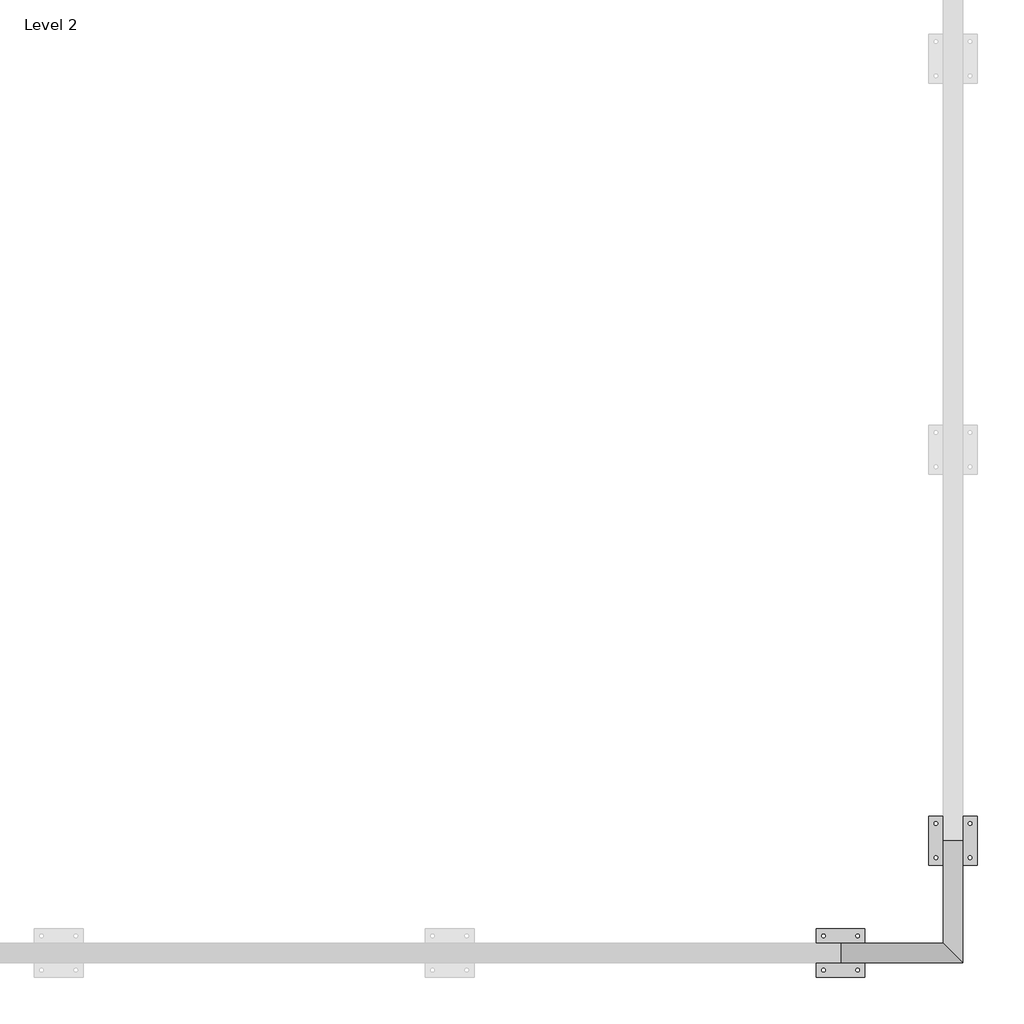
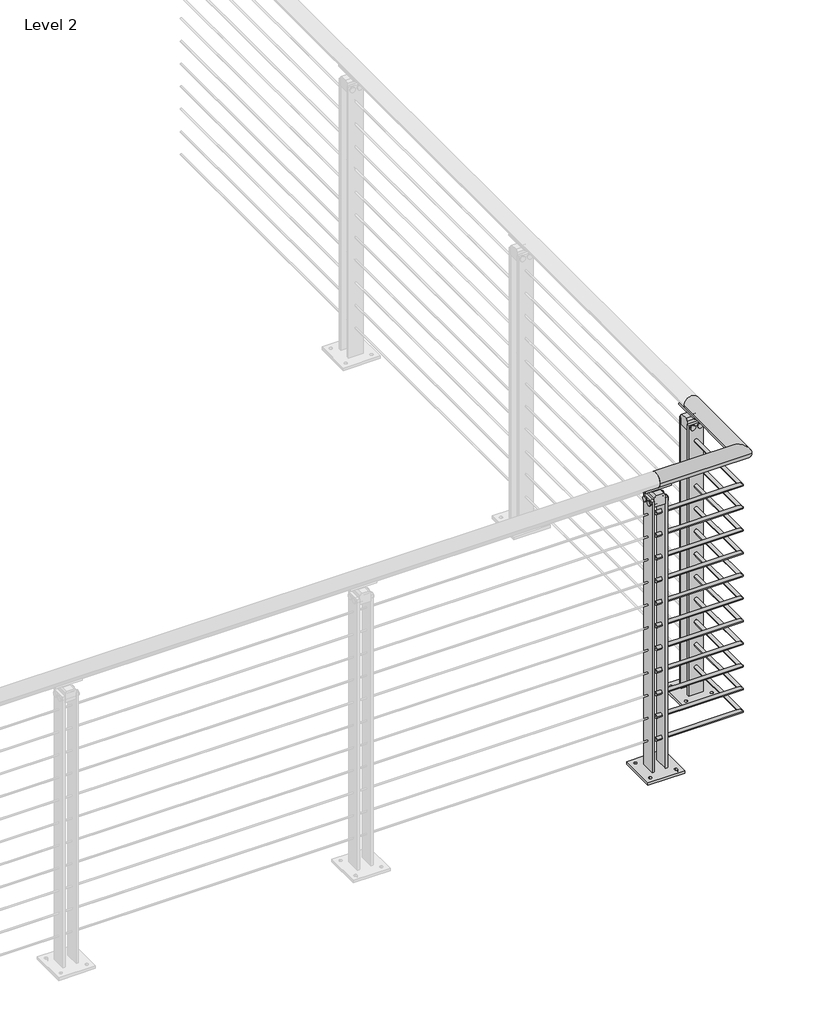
# One storey, part 22 of 31: 1 railing.
"""IFC4 building model written with IfcOpenShell, lengths in millimetres."""

from ifc_helpers import new_model, si_unit, point, frame, frame_2d, origin, place, context, project, spatial, polyline, circle_curve, ellipse_curve, trimmed, segment, composite_curve, outline, extrude, element, save
from ifc_brep_helpers import plane_surface, cylinder_surface, revolved_surface, advanced_brep

model = new_model("IFC4")

# Units and contexts
model_context = context("Model", 3, world=origin())
ifc_project = project(units=[si_unit("LENGTHUNIT", "METRE", prefix="MILLI")], contexts=[model_context])

# Site, building, storey
site = spatial("IfcSite", under=ifc_project)
building = spatial("IfcBuilding", under=site)
storey = spatial("IfcBuildingStorey", under=building, Name="Level 2", Elevation=3048.0)

# Railing
placement = place(None, origin())
element("IfcRailing", 1, ObjectType="VIVA-BLADE-Cable-Floor Mount-Corner", at=placement, inside=storey, context=model_context, shape_type="SolidModel", body=[
    advanced_brep(
    [(20523.0072927, -52130.1426165, 4102.1), (20523.0072927, -52079.3426165, 4102.1), (20840.5072927, -52130.1426165, 4102.1), (20789.7072927, -52079.3426165, 4102.1), (20840.5072927, -51812.6426165, 4102.1), (20789.7072927, -51812.6426165, 4102.1)],
    [
        (0, 1, circle_curve(frame((20523.0072927, -52104.7426165, 4102.1), z_axis=(-1.0, 0.0, 0.0), x_axis=(0.0, 1.0, 0.0)), 25.4)),
        (1, 0, circle_curve(frame((20523.0072927, -52104.7426165, 4102.1), z_axis=(-1.0, 0.0, 0.0), x_axis=(0.0, 1.0, 0.0)), 25.4)),
        (0, 2),
        (2, 3, ellipse_curve(frame((20815.1072927, -52104.7426165, 4102.1), z_axis=(-0.7071067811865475, -0.7071067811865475, 0.0), x_axis=(-0.7071067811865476, 0.7071067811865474, 0.0)), 35.9210245, 25.4)),
        (3, 1),
        (3, 2, ellipse_curve(frame((20815.1072927, -52104.7426165, 4102.1), z_axis=(-0.7071067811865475, -0.7071067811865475, 0.0), x_axis=(-0.7071067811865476, 0.7071067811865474, 0.0)), 35.9210245, 25.4)),
        (4, 5, circle_curve(frame((20815.1072927, -51812.6426165, 4102.1), z_axis=(0.0, 1.0, 0.0), x_axis=(-1.0, 0.0, 0.0)), 25.4)),
        (5, 4, circle_curve(frame((20815.1072927, -51812.6426165, 4102.1), z_axis=(0.0, 1.0, 0.0), x_axis=(-1.0, 0.0, 0.0)), 25.4)),
        (2, 4),
        (5, 3),
    ],
    [
        plane_surface(frame((20523.0072927, -52104.7426165, 4127.5), z_axis=(-1.0, 0.0, 0.0), x_axis=(0.0, 1.0, 0.0))),
        cylinder_surface(frame((20523.0072927, -52104.7426165, 4102.1), z_axis=(-1.0, 0.0, 0.0), x_axis=(0.0, 1.0, 0.0)), 25.4),
        plane_surface(frame((20815.1072927, -51812.6426165, 4127.5), z_axis=(0.0, 1.0, 0.0), x_axis=(0.0, 0.0, 1.0))),
        cylinder_surface(frame((20815.1072927, -52104.7426165, 4102.1), z_axis=(0.0, -1.0, 0.0), x_axis=(-1.0, 0.0, 0.0)), 25.4),
    ],
    [
        (0, [[1, 2]]),
        (1, [[-1, 3, 4, 5]]),
        (1, [[-2, -5, 6, -3]]),
        (2, [[7, 8]]),
        (3, [[-4, 9, -8, 10]]),
        (3, [[-6, -10, -7, -9]]),
    ],
),
    advanced_brep(
    [(20523.0072927, -52098.3926165, 3981.45), (20523.0072927, -52111.0926165, 3981.45), (20808.7572927, -52098.3926165, 3981.45), (20821.4572927, -52111.0926165, 3981.45), (20808.7572927, -51812.6426165, 3981.45), (20821.4572927, -51812.6426165, 3981.45)],
    [
        (0, 1, circle_curve(frame((20523.0072927, -52104.7426165, 3981.45), z_axis=(-1.0, 0.0, 0.0), x_axis=(0.0, -1.0, 0.0)), 6.35)),
        (1, 0, circle_curve(frame((20523.0072927, -52104.7426165, 3981.45), z_axis=(-1.0, 0.0, 0.0), x_axis=(0.0, -1.0, 0.0)), 6.35)),
        (0, 2),
        (2, 3, ellipse_curve(frame((20815.1072927, -52104.7426165, 3981.45), z_axis=(-0.7071067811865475, -0.7071067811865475, 0.0), x_axis=(-0.7071067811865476, 0.7071067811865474, 0.0)), 8.9802561, 6.35)),
        (3, 1),
        (3, 2, ellipse_curve(frame((20815.1072927, -52104.7426165, 3981.45), z_axis=(-0.7071067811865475, -0.7071067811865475, 0.0), x_axis=(-0.7071067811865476, 0.7071067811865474, 0.0)), 8.9802561, 6.35)),
        (4, 5, circle_curve(frame((20815.1072927, -51812.6426165, 3981.45), z_axis=(0.0, 1.0, 0.0), x_axis=(1.0, 0.0, 0.0)), 6.35)),
        (5, 4, circle_curve(frame((20815.1072927, -51812.6426165, 3981.45), z_axis=(0.0, 1.0, 0.0), x_axis=(1.0, 0.0, 0.0)), 6.35)),
        (2, 4),
        (5, 3),
    ],
    [
        plane_surface(frame((20523.0072927, -52104.7426165, 3987.8), z_axis=(-1.0, 0.0, 0.0), x_axis=(0.0, 1.0, 0.0))),
        cylinder_surface(frame((20523.0072927, -52104.7426165, 3981.45), z_axis=(-1.0, 0.0, 0.0), x_axis=(0.0, -1.0, 0.0)), 6.35),
        plane_surface(frame((20815.1072927, -51812.6426165, 3987.8), z_axis=(0.0, 1.0, 0.0), x_axis=(0.0, 0.0, 1.0))),
        cylinder_surface(frame((20815.1072927, -52104.7426165, 3981.45), z_axis=(0.0, -1.0, 0.0), x_axis=(1.0, 0.0, 0.0)), 6.35),
    ],
    [
        (0, [[1, 2]]),
        (1, [[-1, 3, 4, 5]]),
        (1, [[-2, -5, 6, -3]]),
        (2, [[7, 8]]),
        (3, [[-4, 9, -8, 10]]),
        (3, [[-6, -10, -7, -9]]),
    ],
),
    advanced_brep(
    [(20523.0072927, -52098.3926165, 3898.9), (20523.0072927, -52111.0926165, 3898.9), (20808.7572927, -52098.3926165, 3898.9), (20821.4572927, -52111.0926165, 3898.9), (20808.7572927, -51812.6426165, 3898.9), (20821.4572927, -51812.6426165, 3898.9)],
    [
        (0, 1, circle_curve(frame((20523.0072927, -52104.7426165, 3898.9), z_axis=(-1.0, 0.0, 0.0), x_axis=(0.0, -1.0, 0.0)), 6.35)),
        (1, 0, circle_curve(frame((20523.0072927, -52104.7426165, 3898.9), z_axis=(-1.0, 0.0, 0.0), x_axis=(0.0, -1.0, 0.0)), 6.35)),
        (0, 2),
        (2, 3, ellipse_curve(frame((20815.1072927, -52104.7426165, 3898.9), z_axis=(-0.7071067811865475, -0.7071067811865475, 0.0), x_axis=(-0.7071067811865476, 0.7071067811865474, 0.0)), 8.9802561, 6.35)),
        (3, 1),
        (3, 2, ellipse_curve(frame((20815.1072927, -52104.7426165, 3898.9), z_axis=(-0.7071067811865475, -0.7071067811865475, 0.0), x_axis=(-0.7071067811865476, 0.7071067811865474, 0.0)), 8.9802561, 6.35)),
        (4, 5, circle_curve(frame((20815.1072927, -51812.6426165, 3898.9), z_axis=(0.0, 1.0, 0.0), x_axis=(1.0, 0.0, 0.0)), 6.35)),
        (5, 4, circle_curve(frame((20815.1072927, -51812.6426165, 3898.9), z_axis=(0.0, 1.0, 0.0), x_axis=(1.0, 0.0, 0.0)), 6.35)),
        (2, 4),
        (5, 3),
    ],
    [
        plane_surface(frame((20523.0072927, -52104.7426165, 3905.25), z_axis=(-1.0, 0.0, 0.0), x_axis=(0.0, 1.0, 0.0))),
        cylinder_surface(frame((20523.0072927, -52104.7426165, 3898.9), z_axis=(-1.0, 0.0, 0.0), x_axis=(0.0, -1.0, 0.0)), 6.35),
        plane_surface(frame((20815.1072927, -51812.6426165, 3905.25), z_axis=(0.0, 1.0, 0.0), x_axis=(0.0, 0.0, 1.0))),
        cylinder_surface(frame((20815.1072927, -52104.7426165, 3898.9), z_axis=(0.0, -1.0, 0.0), x_axis=(1.0, 0.0, 0.0)), 6.35),
    ],
    [
        (0, [[1, 2]]),
        (1, [[-1, 3, 4, 5]]),
        (1, [[-2, -5, 6, -3]]),
        (2, [[7, 8]]),
        (3, [[-4, 9, -8, 10]]),
        (3, [[-6, -10, -7, -9]]),
    ],
),
    advanced_brep(
    [(20523.0072927, -52098.3926165, 3816.35), (20523.0072927, -52111.0926165, 3816.35), (20808.7572927, -52098.3926165, 3816.35), (20821.4572927, -52111.0926165, 3816.35), (20808.7572927, -51812.6426165, 3816.35), (20821.4572927, -51812.6426165, 3816.35)],
    [
        (0, 1, circle_curve(frame((20523.0072927, -52104.7426165, 3816.35), z_axis=(-1.0, 0.0, 0.0), x_axis=(0.0, -1.0, 0.0)), 6.35)),
        (1, 0, circle_curve(frame((20523.0072927, -52104.7426165, 3816.35), z_axis=(-1.0, 0.0, 0.0), x_axis=(0.0, -1.0, 0.0)), 6.35)),
        (0, 2),
        (2, 3, ellipse_curve(frame((20815.1072927, -52104.7426165, 3816.35), z_axis=(-0.7071067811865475, -0.7071067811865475, 0.0), x_axis=(-0.7071067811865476, 0.7071067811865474, 0.0)), 8.9802561, 6.35)),
        (3, 1),
        (3, 2, ellipse_curve(frame((20815.1072927, -52104.7426165, 3816.35), z_axis=(-0.7071067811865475, -0.7071067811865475, 0.0), x_axis=(-0.7071067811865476, 0.7071067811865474, 0.0)), 8.9802561, 6.35)),
        (4, 5, circle_curve(frame((20815.1072927, -51812.6426165, 3816.35), z_axis=(0.0, 1.0, 0.0), x_axis=(1.0, 0.0, 0.0)), 6.35)),
        (5, 4, circle_curve(frame((20815.1072927, -51812.6426165, 3816.35), z_axis=(0.0, 1.0, 0.0), x_axis=(1.0, 0.0, 0.0)), 6.35)),
        (2, 4),
        (5, 3),
    ],
    [
        plane_surface(frame((20523.0072927, -52104.7426165, 3822.7), z_axis=(-1.0, 0.0, 0.0), x_axis=(0.0, 1.0, 0.0))),
        cylinder_surface(frame((20523.0072927, -52104.7426165, 3816.35), z_axis=(-1.0, 0.0, 0.0), x_axis=(0.0, -1.0, 0.0)), 6.35),
        plane_surface(frame((20815.1072927, -51812.6426165, 3822.7), z_axis=(0.0, 1.0, 0.0), x_axis=(0.0, 0.0, 1.0))),
        cylinder_surface(frame((20815.1072927, -52104.7426165, 3816.35), z_axis=(0.0, -1.0, 0.0), x_axis=(1.0, 0.0, 0.0)), 6.35),
    ],
    [
        (0, [[1, 2]]),
        (1, [[-1, 3, 4, 5]]),
        (1, [[-2, -5, 6, -3]]),
        (2, [[7, 8]]),
        (3, [[-4, 9, -8, 10]]),
        (3, [[-6, -10, -7, -9]]),
    ],
),
    advanced_brep(
    [(20523.0072927, -52098.3926165, 3733.8), (20523.0072927, -52111.0926165, 3733.8), (20808.7572927, -52098.3926165, 3733.8), (20821.4572927, -52111.0926165, 3733.8), (20808.7572927, -51812.6426165, 3733.8), (20821.4572927, -51812.6426165, 3733.8)],
    [
        (0, 1, circle_curve(frame((20523.0072927, -52104.7426165, 3733.8), z_axis=(-1.0, 0.0, 0.0), x_axis=(0.0, -1.0, 0.0)), 6.35)),
        (1, 0, circle_curve(frame((20523.0072927, -52104.7426165, 3733.8), z_axis=(-1.0, 0.0, 0.0), x_axis=(0.0, -1.0, 0.0)), 6.35)),
        (0, 2),
        (2, 3, ellipse_curve(frame((20815.1072927, -52104.7426165, 3733.8), z_axis=(-0.7071067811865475, -0.7071067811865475, 0.0), x_axis=(-0.7071067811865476, 0.7071067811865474, 0.0)), 8.9802561, 6.35)),
        (3, 1),
        (3, 2, ellipse_curve(frame((20815.1072927, -52104.7426165, 3733.8), z_axis=(-0.7071067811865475, -0.7071067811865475, 0.0), x_axis=(-0.7071067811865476, 0.7071067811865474, 0.0)), 8.9802561, 6.35)),
        (4, 5, circle_curve(frame((20815.1072927, -51812.6426165, 3733.8), z_axis=(0.0, 1.0, 0.0), x_axis=(1.0, 0.0, 0.0)), 6.35)),
        (5, 4, circle_curve(frame((20815.1072927, -51812.6426165, 3733.8), z_axis=(0.0, 1.0, 0.0), x_axis=(1.0, 0.0, 0.0)), 6.35)),
        (2, 4),
        (5, 3),
    ],
    [
        plane_surface(frame((20523.0072927, -52104.7426165, 3740.15), z_axis=(-1.0, 0.0, 0.0), x_axis=(0.0, 1.0, 0.0))),
        cylinder_surface(frame((20523.0072927, -52104.7426165, 3733.8), z_axis=(-1.0, 0.0, 0.0), x_axis=(0.0, -1.0, 0.0)), 6.35),
        plane_surface(frame((20815.1072927, -51812.6426165, 3740.15), z_axis=(0.0, 1.0, 0.0), x_axis=(0.0, 0.0, 1.0))),
        cylinder_surface(frame((20815.1072927, -52104.7426165, 3733.8), z_axis=(0.0, -1.0, 0.0), x_axis=(1.0, 0.0, 0.0)), 6.35),
    ],
    [
        (0, [[1, 2]]),
        (1, [[-1, 3, 4, 5]]),
        (1, [[-2, -5, 6, -3]]),
        (2, [[7, 8]]),
        (3, [[-4, 9, -8, 10]]),
        (3, [[-6, -10, -7, -9]]),
    ],
),
    advanced_brep(
    [(20523.0072927, -52098.3926165, 3651.25), (20523.0072927, -52111.0926165, 3651.25), (20808.7572927, -52098.3926165, 3651.25), (20821.4572927, -52111.0926165, 3651.25), (20808.7572927, -51812.6426165, 3651.25), (20821.4572927, -51812.6426165, 3651.25)],
    [
        (0, 1, circle_curve(frame((20523.0072927, -52104.7426165, 3651.25), z_axis=(-1.0, 0.0, 0.0), x_axis=(0.0, -1.0, 0.0)), 6.35)),
        (1, 0, circle_curve(frame((20523.0072927, -52104.7426165, 3651.25), z_axis=(-1.0, 0.0, 0.0), x_axis=(0.0, -1.0, 0.0)), 6.35)),
        (0, 2),
        (2, 3, ellipse_curve(frame((20815.1072927, -52104.7426165, 3651.25), z_axis=(-0.7071067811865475, -0.7071067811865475, 0.0), x_axis=(-0.7071067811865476, 0.7071067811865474, 0.0)), 8.9802561, 6.35)),
        (3, 1),
        (3, 2, ellipse_curve(frame((20815.1072927, -52104.7426165, 3651.25), z_axis=(-0.7071067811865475, -0.7071067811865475, 0.0), x_axis=(-0.7071067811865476, 0.7071067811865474, 0.0)), 8.9802561, 6.35)),
        (4, 5, circle_curve(frame((20815.1072927, -51812.6426165, 3651.25), z_axis=(0.0, 1.0, 0.0), x_axis=(1.0, 0.0, 0.0)), 6.35)),
        (5, 4, circle_curve(frame((20815.1072927, -51812.6426165, 3651.25), z_axis=(0.0, 1.0, 0.0), x_axis=(1.0, 0.0, 0.0)), 6.35)),
        (2, 4),
        (5, 3),
    ],
    [
        plane_surface(frame((20523.0072927, -52104.7426165, 3657.6), z_axis=(-1.0, 0.0, 0.0), x_axis=(0.0, 1.0, 0.0))),
        cylinder_surface(frame((20523.0072927, -52104.7426165, 3651.25), z_axis=(-1.0, 0.0, 0.0), x_axis=(0.0, -1.0, 0.0)), 6.35),
        plane_surface(frame((20815.1072927, -51812.6426165, 3657.6), z_axis=(0.0, 1.0, 0.0), x_axis=(0.0, 0.0, 1.0))),
        cylinder_surface(frame((20815.1072927, -52104.7426165, 3651.25), z_axis=(0.0, -1.0, 0.0), x_axis=(1.0, 0.0, 0.0)), 6.35),
    ],
    [
        (0, [[1, 2]]),
        (1, [[-1, 3, 4, 5]]),
        (1, [[-2, -5, 6, -3]]),
        (2, [[7, 8]]),
        (3, [[-4, 9, -8, 10]]),
        (3, [[-6, -10, -7, -9]]),
    ],
),
    advanced_brep(
    [(20523.0072927, -52098.3926165, 3568.7), (20523.0072927, -52111.0926165, 3568.7), (20808.7572927, -52098.3926165, 3568.7), (20821.4572927, -52111.0926165, 3568.7), (20808.7572927, -51812.6426165, 3568.7), (20821.4572927, -51812.6426165, 3568.7)],
    [
        (0, 1, circle_curve(frame((20523.0072927, -52104.7426165, 3568.7), z_axis=(-1.0, 0.0, 0.0), x_axis=(0.0, -1.0, 0.0)), 6.35)),
        (1, 0, circle_curve(frame((20523.0072927, -52104.7426165, 3568.7), z_axis=(-1.0, 0.0, 0.0), x_axis=(0.0, -1.0, 0.0)), 6.35)),
        (0, 2),
        (2, 3, ellipse_curve(frame((20815.1072927, -52104.7426165, 3568.7), z_axis=(-0.7071067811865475, -0.7071067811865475, 0.0), x_axis=(-0.7071067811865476, 0.7071067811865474, 0.0)), 8.9802561, 6.35)),
        (3, 1),
        (3, 2, ellipse_curve(frame((20815.1072927, -52104.7426165, 3568.7), z_axis=(-0.7071067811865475, -0.7071067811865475, 0.0), x_axis=(-0.7071067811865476, 0.7071067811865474, 0.0)), 8.9802561, 6.35)),
        (4, 5, circle_curve(frame((20815.1072927, -51812.6426165, 3568.7), z_axis=(0.0, 1.0, 0.0), x_axis=(1.0, 0.0, 0.0)), 6.35)),
        (5, 4, circle_curve(frame((20815.1072927, -51812.6426165, 3568.7), z_axis=(0.0, 1.0, 0.0), x_axis=(1.0, 0.0, 0.0)), 6.35)),
        (2, 4),
        (5, 3),
    ],
    [
        plane_surface(frame((20523.0072927, -52104.7426165, 3575.05), z_axis=(-1.0, 0.0, 0.0), x_axis=(0.0, 1.0, 0.0))),
        cylinder_surface(frame((20523.0072927, -52104.7426165, 3568.7), z_axis=(-1.0, 0.0, 0.0), x_axis=(0.0, -1.0, 0.0)), 6.35),
        plane_surface(frame((20815.1072927, -51812.6426165, 3575.05), z_axis=(0.0, 1.0, 0.0), x_axis=(0.0, 0.0, 1.0))),
        cylinder_surface(frame((20815.1072927, -52104.7426165, 3568.7), z_axis=(0.0, -1.0, 0.0), x_axis=(1.0, 0.0, 0.0)), 6.35),
    ],
    [
        (0, [[1, 2]]),
        (1, [[-1, 3, 4, 5]]),
        (1, [[-2, -5, 6, -3]]),
        (2, [[7, 8]]),
        (3, [[-4, 9, -8, 10]]),
        (3, [[-6, -10, -7, -9]]),
    ],
),
    advanced_brep(
    [(20523.0072927, -52098.3926165, 3486.15), (20523.0072927, -52111.0926165, 3486.15), (20808.7572927, -52098.3926165, 3486.15), (20821.4572927, -52111.0926165, 3486.15), (20808.7572927, -51812.6426165, 3486.15), (20821.4572927, -51812.6426165, 3486.15)],
    [
        (0, 1, circle_curve(frame((20523.0072927, -52104.7426165, 3486.15), z_axis=(-1.0, 0.0, 0.0), x_axis=(0.0, -1.0, 0.0)), 6.35)),
        (1, 0, circle_curve(frame((20523.0072927, -52104.7426165, 3486.15), z_axis=(-1.0, 0.0, 0.0), x_axis=(0.0, -1.0, 0.0)), 6.35)),
        (0, 2),
        (2, 3, ellipse_curve(frame((20815.1072927, -52104.7426165, 3486.15), z_axis=(-0.7071067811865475, -0.7071067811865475, 0.0), x_axis=(-0.7071067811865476, 0.7071067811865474, 0.0)), 8.9802561, 6.35)),
        (3, 1),
        (3, 2, ellipse_curve(frame((20815.1072927, -52104.7426165, 3486.15), z_axis=(-0.7071067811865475, -0.7071067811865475, 0.0), x_axis=(-0.7071067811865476, 0.7071067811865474, 0.0)), 8.9802561, 6.35)),
        (4, 5, circle_curve(frame((20815.1072927, -51812.6426165, 3486.15), z_axis=(0.0, 1.0, 0.0), x_axis=(1.0, 0.0, 0.0)), 6.35)),
        (5, 4, circle_curve(frame((20815.1072927, -51812.6426165, 3486.15), z_axis=(0.0, 1.0, 0.0), x_axis=(1.0, 0.0, 0.0)), 6.35)),
        (2, 4),
        (5, 3),
    ],
    [
        plane_surface(frame((20523.0072927, -52104.7426165, 3492.5), z_axis=(-1.0, 0.0, 0.0), x_axis=(0.0, 1.0, 0.0))),
        cylinder_surface(frame((20523.0072927, -52104.7426165, 3486.15), z_axis=(-1.0, 0.0, 0.0), x_axis=(0.0, -1.0, 0.0)), 6.35),
        plane_surface(frame((20815.1072927, -51812.6426165, 3492.5), z_axis=(0.0, 1.0, 0.0), x_axis=(0.0, 0.0, 1.0))),
        cylinder_surface(frame((20815.1072927, -52104.7426165, 3486.15), z_axis=(0.0, -1.0, 0.0), x_axis=(1.0, 0.0, 0.0)), 6.35),
    ],
    [
        (0, [[1, 2]]),
        (1, [[-1, 3, 4, 5]]),
        (1, [[-2, -5, 6, -3]]),
        (2, [[7, 8]]),
        (3, [[-4, 9, -8, 10]]),
        (3, [[-6, -10, -7, -9]]),
    ],
),
    advanced_brep(
    [(20523.0072927, -52098.3926165, 3403.6), (20523.0072927, -52111.0926165, 3403.6), (20808.7572927, -52098.3926165, 3403.6), (20821.4572927, -52111.0926165, 3403.6), (20808.7572927, -51812.6426165, 3403.6), (20821.4572927, -51812.6426165, 3403.6)],
    [
        (0, 1, circle_curve(frame((20523.0072927, -52104.7426165, 3403.6), z_axis=(-1.0, 0.0, 0.0), x_axis=(0.0, -1.0, 0.0)), 6.35)),
        (1, 0, circle_curve(frame((20523.0072927, -52104.7426165, 3403.6), z_axis=(-1.0, 0.0, 0.0), x_axis=(0.0, -1.0, 0.0)), 6.35)),
        (0, 2),
        (2, 3, ellipse_curve(frame((20815.1072927, -52104.7426165, 3403.6), z_axis=(-0.7071067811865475, -0.7071067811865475, 0.0), x_axis=(-0.7071067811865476, 0.7071067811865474, 0.0)), 8.9802561, 6.35)),
        (3, 1),
        (3, 2, ellipse_curve(frame((20815.1072927, -52104.7426165, 3403.6), z_axis=(-0.7071067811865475, -0.7071067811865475, 0.0), x_axis=(-0.7071067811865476, 0.7071067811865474, 0.0)), 8.9802561, 6.35)),
        (4, 5, circle_curve(frame((20815.1072927, -51812.6426165, 3403.6), z_axis=(0.0, 1.0, 0.0), x_axis=(1.0, 0.0, 0.0)), 6.35)),
        (5, 4, circle_curve(frame((20815.1072927, -51812.6426165, 3403.6), z_axis=(0.0, 1.0, 0.0), x_axis=(1.0, 0.0, 0.0)), 6.35)),
        (2, 4),
        (5, 3),
    ],
    [
        plane_surface(frame((20523.0072927, -52104.7426165, 3409.95), z_axis=(-1.0, 0.0, 0.0), x_axis=(0.0, 1.0, 0.0))),
        cylinder_surface(frame((20523.0072927, -52104.7426165, 3403.6), z_axis=(-1.0, 0.0, 0.0), x_axis=(0.0, -1.0, 0.0)), 6.35),
        plane_surface(frame((20815.1072927, -51812.6426165, 3409.95), z_axis=(0.0, 1.0, 0.0), x_axis=(0.0, 0.0, 1.0))),
        cylinder_surface(frame((20815.1072927, -52104.7426165, 3403.6), z_axis=(0.0, -1.0, 0.0), x_axis=(1.0, 0.0, 0.0)), 6.35),
    ],
    [
        (0, [[1, 2]]),
        (1, [[-1, 3, 4, 5]]),
        (1, [[-2, -5, 6, -3]]),
        (2, [[7, 8]]),
        (3, [[-4, 9, -8, 10]]),
        (3, [[-6, -10, -7, -9]]),
    ],
),
    advanced_brep(
    [(20523.0072927, -52098.3926165, 3321.05), (20523.0072927, -52111.0926165, 3321.05), (20808.7572927, -52098.3926165, 3321.05), (20821.4572927, -52111.0926165, 3321.05), (20808.7572927, -51812.6426165, 3321.05), (20821.4572927, -51812.6426165, 3321.05)],
    [
        (0, 1, circle_curve(frame((20523.0072927, -52104.7426165, 3321.05), z_axis=(-1.0, 0.0, 0.0), x_axis=(0.0, -1.0, 0.0)), 6.35)),
        (1, 0, circle_curve(frame((20523.0072927, -52104.7426165, 3321.05), z_axis=(-1.0, 0.0, 0.0), x_axis=(0.0, -1.0, 0.0)), 6.35)),
        (0, 2),
        (2, 3, ellipse_curve(frame((20815.1072927, -52104.7426165, 3321.05), z_axis=(-0.7071067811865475, -0.7071067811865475, 0.0), x_axis=(-0.7071067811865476, 0.7071067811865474, 0.0)), 8.9802561, 6.35)),
        (3, 1),
        (3, 2, ellipse_curve(frame((20815.1072927, -52104.7426165, 3321.05), z_axis=(-0.7071067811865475, -0.7071067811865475, 0.0), x_axis=(-0.7071067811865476, 0.7071067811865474, 0.0)), 8.9802561, 6.35)),
        (4, 5, circle_curve(frame((20815.1072927, -51812.6426165, 3321.05), z_axis=(0.0, 1.0, 0.0), x_axis=(1.0, 0.0, 0.0)), 6.35)),
        (5, 4, circle_curve(frame((20815.1072927, -51812.6426165, 3321.05), z_axis=(0.0, 1.0, 0.0), x_axis=(1.0, 0.0, 0.0)), 6.35)),
        (2, 4),
        (5, 3),
    ],
    [
        plane_surface(frame((20523.0072927, -52104.7426165, 3327.4), z_axis=(-1.0, 0.0, 0.0), x_axis=(0.0, 1.0, 0.0))),
        cylinder_surface(frame((20523.0072927, -52104.7426165, 3321.05), z_axis=(-1.0, 0.0, 0.0), x_axis=(0.0, -1.0, 0.0)), 6.35),
        plane_surface(frame((20815.1072927, -51812.6426165, 3327.4), z_axis=(0.0, 1.0, 0.0), x_axis=(0.0, 0.0, 1.0))),
        cylinder_surface(frame((20815.1072927, -52104.7426165, 3321.05), z_axis=(0.0, -1.0, 0.0), x_axis=(1.0, 0.0, 0.0)), 6.35),
    ],
    [
        (0, [[1, 2]]),
        (1, [[-1, 3, 4, 5]]),
        (1, [[-2, -5, 6, -3]]),
        (2, [[7, 8]]),
        (3, [[-4, 9, -8, 10]]),
        (3, [[-6, -10, -7, -9]]),
    ],
),
    advanced_brep(
    [(20523.0072927, -52098.3926165, 3238.5), (20523.0072927, -52111.0926165, 3238.5), (20808.7572927, -52098.3926165, 3238.5), (20821.4572927, -52111.0926165, 3238.5), (20808.7572927, -51812.6426165, 3238.5), (20821.4572927, -51812.6426165, 3238.5)],
    [
        (0, 1, circle_curve(frame((20523.0072927, -52104.7426165, 3238.5), z_axis=(-1.0, 0.0, 0.0), x_axis=(0.0, -1.0, 0.0)), 6.35)),
        (1, 0, circle_curve(frame((20523.0072927, -52104.7426165, 3238.5), z_axis=(-1.0, 0.0, 0.0), x_axis=(0.0, -1.0, 0.0)), 6.35)),
        (0, 2),
        (2, 3, ellipse_curve(frame((20815.1072927, -52104.7426165, 3238.5), z_axis=(-0.7071067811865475, -0.7071067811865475, 0.0), x_axis=(-0.7071067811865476, 0.7071067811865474, 0.0)), 8.9802561, 6.35)),
        (3, 1),
        (3, 2, ellipse_curve(frame((20815.1072927, -52104.7426165, 3238.5), z_axis=(-0.7071067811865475, -0.7071067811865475, 0.0), x_axis=(-0.7071067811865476, 0.7071067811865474, 0.0)), 8.9802561, 6.35)),
        (4, 5, circle_curve(frame((20815.1072927, -51812.6426165, 3238.5), z_axis=(0.0, 1.0, 0.0), x_axis=(1.0, 0.0, 0.0)), 6.35)),
        (5, 4, circle_curve(frame((20815.1072927, -51812.6426165, 3238.5), z_axis=(0.0, 1.0, 0.0), x_axis=(1.0, 0.0, 0.0)), 6.35)),
        (2, 4),
        (5, 3),
    ],
    [
        plane_surface(frame((20523.0072927, -52104.7426165, 3244.85), z_axis=(-1.0, 0.0, 0.0), x_axis=(0.0, 1.0, 0.0))),
        cylinder_surface(frame((20523.0072927, -52104.7426165, 3238.5), z_axis=(-1.0, 0.0, 0.0), x_axis=(0.0, -1.0, 0.0)), 6.35),
        plane_surface(frame((20815.1072927, -51812.6426165, 3244.85), z_axis=(0.0, 1.0, 0.0), x_axis=(0.0, 0.0, 1.0))),
        cylinder_surface(frame((20815.1072927, -52104.7426165, 3238.5), z_axis=(0.0, -1.0, 0.0), x_axis=(1.0, 0.0, 0.0)), 6.35),
    ],
    [
        (0, [[1, 2]]),
        (1, [[-1, 3, 4, 5]]),
        (1, [[-2, -5, 6, -3]]),
        (2, [[7, 8]]),
        (3, [[-4, 9, -8, 10]]),
        (3, [[-6, -10, -7, -9]]),
    ],
),
    advanced_brep(
    [(20523.0072927, -52098.3926165, 3155.95), (20523.0072927, -52111.0926165, 3155.95), (20808.7572927, -52098.3926165, 3155.95), (20821.4572927, -52111.0926165, 3155.95), (20808.7572927, -51812.6426165, 3155.95), (20821.4572927, -51812.6426165, 3155.95)],
    [
        (0, 1, circle_curve(frame((20523.0072927, -52104.7426165, 3155.95), z_axis=(-1.0, 0.0, 0.0), x_axis=(0.0, -1.0, 0.0)), 6.35)),
        (1, 0, circle_curve(frame((20523.0072927, -52104.7426165, 3155.95), z_axis=(-1.0, 0.0, 0.0), x_axis=(0.0, -1.0, 0.0)), 6.35)),
        (0, 2),
        (2, 3, ellipse_curve(frame((20815.1072927, -52104.7426165, 3155.95), z_axis=(-0.7071067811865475, -0.7071067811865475, 0.0), x_axis=(-0.7071067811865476, 0.7071067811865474, 0.0)), 8.9802561, 6.35)),
        (3, 1),
        (3, 2, ellipse_curve(frame((20815.1072927, -52104.7426165, 3155.95), z_axis=(-0.7071067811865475, -0.7071067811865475, 0.0), x_axis=(-0.7071067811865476, 0.7071067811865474, 0.0)), 8.9802561, 6.35)),
        (4, 5, circle_curve(frame((20815.1072927, -51812.6426165, 3155.95), z_axis=(0.0, 1.0, 0.0), x_axis=(1.0, 0.0, 0.0)), 6.35)),
        (5, 4, circle_curve(frame((20815.1072927, -51812.6426165, 3155.95), z_axis=(0.0, 1.0, 0.0), x_axis=(1.0, 0.0, 0.0)), 6.35)),
        (2, 4),
        (5, 3),
    ],
    [
        plane_surface(frame((20523.0072927, -52104.7426165, 3162.3), z_axis=(-1.0, 0.0, 0.0), x_axis=(0.0, 1.0, 0.0))),
        cylinder_surface(frame((20523.0072927, -52104.7426165, 3155.95), z_axis=(-1.0, 0.0, 0.0), x_axis=(0.0, -1.0, 0.0)), 6.35),
        plane_surface(frame((20815.1072927, -51812.6426165, 3162.3), z_axis=(0.0, 1.0, 0.0), x_axis=(0.0, 0.0, 1.0))),
        cylinder_surface(frame((20815.1072927, -52104.7426165, 3155.95), z_axis=(0.0, -1.0, 0.0), x_axis=(1.0, 0.0, 0.0)), 6.35),
    ],
    [
        (0, [[1, 2]]),
        (1, [[-1, 3, 4, 5]]),
        (1, [[-2, -5, 6, -3]]),
        (2, [[7, 8]]),
        (3, [[-4, 9, -8, 10]]),
        (3, [[-6, -10, -7, -9]]),
    ],
),
    advanced_brep(
    [(20802.3471691, -51767.4052165, 4080.0967655), (20827.2192336, -51767.4052165, 4079.9535285), (20830.0281639, -51767.4052165, 4075.1267745), (20798.5112716, -51767.4052165, 4075.707533), (20802.3471691, -51857.8800165, 4080.0967655), (20798.5112716, -51857.8800165, 4075.707533), (20830.1419573, -51857.8800165, 4075.1893964), (20827.3062057, -51857.8800165, 4080.0018447)],
    [
        (0, 1, circle_curve(frame((20814.9109719, -51767.4052165, 4102.2115898), z_axis=(0.0, -1.0, 0.0), x_axis=(-1.0, 0.0, 0.0)), 25.4345159)),
        (1, 2, circle_curve(frame((20828.5508588, -51767.4052165, 4077.4993599), z_axis=(0.0, 1.0, 0.0), x_axis=(-1.0, 0.0, 0.0)), 2.7949225)),
        (2, 3, circle_curve(frame((20814.7775089, -51767.4052165, 4102.9742164), z_axis=(0.0, 1.0, 0.0), x_axis=(-1.0, 0.0, 0.0)), 31.75)),
        (3, 0, circle_curve(frame((20800.7996114, -51767.4052165, 4077.5784521), z_axis=(0.0, 1.0, 0.0), x_axis=(-1.0, 0.0, 0.0)), 2.9558141)),
        (4, 5, circle_curve(frame((20800.7996114, -51857.8800165, 4077.5784521), z_axis=(0.0, -1.0, 0.0), x_axis=(-1.0, 0.0, 0.0)), 2.9558141)),
        (5, 6, circle_curve(frame((20814.7775089, -51857.8800165, 4102.9742164), z_axis=(0.0, -1.0, 0.0), x_axis=(-1.0, 0.0, 0.0)), 31.75)),
        (6, 7, circle_curve(frame((20828.5508588, -51857.8800165, 4077.4993599), z_axis=(0.0, -1.0, 0.0), x_axis=(-1.0, 0.0, 0.0)), 2.7949225)),
        (7, 4, circle_curve(frame((20814.9109719, -51857.8800165, 4102.2115898), z_axis=(0.0, 1.0, 0.0), x_axis=(-1.0, 0.0, 0.0)), 25.4345159)),
        (0, 4),
        (7, 1),
        (6, 2),
        (5, 3),
    ],
    [
        plane_surface(frame((20789.4764561, -51767.4052165, 4102.2115898), z_axis=(0.0, 1.0, 0.0), x_axis=(0.0, 0.0, -1.0))),
        plane_surface(frame((20789.4764561, -51857.8800165, 4102.2115898), z_axis=(0.0, -1.0, 0.0), x_axis=(0.0, 0.0, 1.0))),
        revolved_surface(polyline([(20789.476456, -51857.8800165, 4102.2115898), (20789.476456, -51767.4052165, 4102.2115898)]), (20814.9109719, -51857.8800165, 4102.2115898), (0.0, -1.0, 0.0)),
        cylinder_surface(frame((20828.5508588, -51857.8800165, 4077.4993599), z_axis=(0.0, 1.0, 0.0), x_axis=(-1.0, 0.0, 0.0)), 2.7949225),
        cylinder_surface(frame((20814.7775089, -51857.8800165, 4102.9742164), z_axis=(0.0, 1.0, 0.0), x_axis=(-1.0, 0.0, 0.0)), 31.75),
        cylinder_surface(frame((20800.7996114, -51857.8800165, 4077.5784521), z_axis=(0.0, 1.0, 0.0), x_axis=(-1.0, 0.0, 0.0)), 2.9558141),
    ],
    [
        (0, [[1, 2, 3, 4]]),
        (1, [[5, 6, 7, 8]]),
        (2, [[-1, 9, -8, 10]]),
        (3, [[-2, -10, -7, 11]]),
        (4, [[-3, -11, -6, 12]]),
        (5, [[-4, -12, -5, -9]]),
    ],
),
    extrude(outline(composite_curve([segment(polyline([(-51799.9426165, 4062.4125), (-51825.3426165, 4062.4125)]), True, "CONTINUOUS"), segment(trimmed(circle_curve(frame_2d((-51839.7105314, 4062.4125)), 14.3679149), [point((-51825.3426165, 4062.4125))], [point((-51839.7105314, 4076.7804149))], True, "CARTESIAN"), True, "CONTINUOUS"), segment(polyline([(-51839.7105314, 4076.7804149), (-51785.5747017, 4076.7804149)]), True, "CONTINUOUS"), segment(trimmed(circle_curve(frame_2d((-51785.5747017, 4062.4125)), 14.3679149), [point((-51785.5747017, 4076.7804149))], [point((-51799.9426165, 4062.4125))], True, "CARTESIAN"), True, "CONTINUOUS")], self_intersect=False)), frame((20812.5672927, 0.0, 0.0), z_axis=(1.0, 0.0, 0.0), x_axis=(0.0, 1.0, 0.0)), (0.0, 0.0, 1.0), 5.08),
    extrude(outline(polyline([(20878.6060986, -51749.1545534), (20878.6060986, -51876.1545534), (20751.6084868, -51876.1545534), (20751.6084868, -51749.1545534), (20878.6060986, -51749.1545534)]), holes=[composite_curve([segment(trimmed(circle_curve(frame_2d((20859.5560986, -51857.1045534)), 4.7625), [point((20864.3185986, -51857.1045534))], [point((20854.7935986, -51857.1045534))], True, "CARTESIAN"), True, "CONTINUOUS"), segment(trimmed(circle_curve(frame_2d((20859.5560986, -51857.1045534)), 4.7625), [point((20854.7935986, -51857.1045534))], [point((20864.3185986, -51857.1045534))], True, "CARTESIAN"), True, "CONTINUOUS")], self_intersect=False), composite_curve([segment(trimmed(circle_curve(frame_2d((20770.6584868, -51857.1045534)), 4.7625), [point((20775.4209868, -51857.1045534))], [point((20765.8959868, -51857.1045534))], True, "CARTESIAN"), True, "CONTINUOUS"), segment(trimmed(circle_curve(frame_2d((20770.6584868, -51857.1045534)), 4.7625), [point((20765.8959868, -51857.1045534))], [point((20775.4209868, -51857.1045534))], True, "CARTESIAN"), True, "CONTINUOUS")], self_intersect=False), composite_curve([segment(trimmed(circle_curve(frame_2d((20770.6584868, -51768.2045534)), 4.7625), [point((20775.4209868, -51768.2045534))], [point((20765.8959868, -51768.2045534))], True, "CARTESIAN"), True, "CONTINUOUS"), segment(trimmed(circle_curve(frame_2d((20770.6584868, -51768.2045534)), 4.7625), [point((20765.8959868, -51768.2045534))], [point((20775.4209868, -51768.2045534))], True, "CARTESIAN"), True, "CONTINUOUS")], self_intersect=False), composite_curve([segment(trimmed(circle_curve(frame_2d((20859.5560986, -51768.2045534)), 4.7625), [point((20864.3185986, -51768.2045534))], [point((20854.7935986, -51768.2045534))], True, "CARTESIAN"), True, "CONTINUOUS"), segment(trimmed(circle_curve(frame_2d((20859.5560986, -51768.2045534)), 4.7625), [point((20854.7935986, -51768.2045534))], [point((20864.3185986, -51768.2045534))], True, "CARTESIAN"), True, "CONTINUOUS")], self_intersect=False)]), frame((0.0, 0.0, 3048.0), z_axis=(0.0, 0.0, 1.0), x_axis=(1.0, 0.0, 0.0)), (0.0, 0.0, 1.0), 9.525),
    extrude(outline(polyline([(20789.707496, -51839.7174522), (20789.707496, -51831.6926165), (20840.5098206, -51831.6926165), (20840.5098206, -51839.7174522), (20789.707496, -51839.7174522)])), frame((0.0, 0.0, 3048.0), z_axis=(0.0, 0.0, 1.0), x_axis=(1.0, 0.0, 0.0)), (0.0, 0.0, 1.0), 996.95),
    extrude(outline(composite_curve([segment(trimmed(circle_curve(frame_2d((4034.0416929, 20827.8097696)), 8.89), [point((4034.0416929, 20836.6997696))], [point((4034.0416929, 20818.9197696))], False, "CARTESIAN"), True, "CONTINUOUS"), segment(trimmed(circle_curve(frame_2d((4034.0416929, 20827.8097696)), 8.89), [point((4034.0416929, 20818.9197696))], [point((4034.0416929, 20836.6997696))], False, "CARTESIAN"), True, "CONTINUOUS")], self_intersect=False)), frame((0.0, -51844.3926165, 0.0), z_axis=(0.0, 1.0, 0.0), x_axis=(0.0, 0.0, 1.0)), (0.0, 0.0, 1.0), 63.4880631),
    extrude(outline(composite_curve([segment(trimmed(circle_curve(frame_2d((4034.0416929, 20802.4098716)), 8.89), [point((4034.0416929, 20811.2998716))], [point((4034.0416929, 20793.5198716))], False, "CARTESIAN"), True, "CONTINUOUS"), segment(trimmed(circle_curve(frame_2d((4034.0416929, 20802.4098716)), 8.89), [point((4034.0416929, 20793.5198716))], [point((4034.0416929, 20811.2998716))], False, "CARTESIAN"), True, "CONTINUOUS")], self_intersect=False)), frame((0.0, -51844.3926165, 0.0), z_axis=(0.0, 1.0, 0.0), x_axis=(0.0, 0.0, 1.0)), (0.0, 0.0, 1.0), 63.4880631),
    extrude(outline(polyline([(-51831.6926165, 4022.7123), (-51831.6926165, 4056.0625), (-51825.3426165, 4062.4125), (-51799.9426165, 4062.4125), (-51793.5926165, 4056.0625), (-51793.5926165, 4022.7123), (-51831.6926165, 4022.7123)])), frame((20789.7072927, 0.0, 0.0), z_axis=(1.0, 0.0, 0.0), x_axis=(0.0, 1.0, 0.0)), (0.0, 0.0, 1.0), 50.8025279),
    extrude(outline(polyline([(20789.707496, -51793.5926546), (20789.707496, -51785.5916546), (20840.5098206, -51785.5916546), (20840.5098206, -51793.5926546), (20789.707496, -51793.5926546)])), frame((0.0, 0.0, 3048.0), z_axis=(0.0, 0.0, 1.0), x_axis=(1.0, 0.0, 0.0)), (0.0, 0.0, 1.0), 996.95),
    advanced_brep(
    [(20568.2446927, -52091.9824929, 4080.0967655), (20568.2446927, -52116.8545574, 4079.9535285), (20568.2446927, -52119.6634877, 4075.1267745), (20568.2446927, -52088.1465955, 4075.707533), (20477.7698927, -52091.9824929, 4080.0967655), (20477.7698927, -52088.1465955, 4075.707533), (20477.7698927, -52119.7772811, 4075.1893964), (20477.7698927, -52116.9415296, 4080.0018447)],
    [
        (0, 1, circle_curve(frame((20568.2446927, -52104.5462958, 4102.2115898), z_axis=(-1.0, 0.0, 0.0), x_axis=(0.0, 1.0, 0.0)), 25.4345159)),
        (1, 2, circle_curve(frame((20568.2446927, -52118.1861827, 4077.4993599), z_axis=(1.0, 0.0, 0.0), x_axis=(0.0, 1.0, 0.0)), 2.7949225)),
        (2, 3, circle_curve(frame((20568.2446927, -52104.4128327, 4102.9742164), z_axis=(1.0, 0.0, 0.0), x_axis=(0.0, 1.0, 0.0)), 31.75)),
        (3, 0, circle_curve(frame((20568.2446927, -52090.4349352, 4077.5784521), z_axis=(1.0, 0.0, 0.0), x_axis=(0.0, 1.0, 0.0)), 2.9558141)),
        (4, 5, circle_curve(frame((20477.7698927, -52090.4349352, 4077.5784521), z_axis=(-1.0, 0.0, 0.0), x_axis=(0.0, 1.0, 0.0)), 2.9558141)),
        (5, 6, circle_curve(frame((20477.7698927, -52104.4128327, 4102.9742164), z_axis=(-1.0, 0.0, 0.0), x_axis=(0.0, 1.0, 0.0)), 31.75)),
        (6, 7, circle_curve(frame((20477.7698927, -52118.1861827, 4077.4993599), z_axis=(-1.0, 0.0, 0.0), x_axis=(0.0, 1.0, 0.0)), 2.7949225)),
        (7, 4, circle_curve(frame((20477.7698927, -52104.5462958, 4102.2115898), z_axis=(1.0, 0.0, 0.0), x_axis=(0.0, 1.0, 0.0)), 25.4345159)),
        (0, 4),
        (7, 1),
        (6, 2),
        (5, 3),
    ],
    [
        plane_surface(frame((20568.2446927, -52079.1117799, 4102.2115898), z_axis=(1.0, 0.0, 0.0), x_axis=(0.0, 0.0, -1.0))),
        plane_surface(frame((20477.7698927, -52079.1117799, 4102.2115898), z_axis=(-1.0, 0.0, 0.0), x_axis=(0.0, 0.0, 1.0))),
        revolved_surface(polyline([(20477.7698927, -52079.1117799, 4102.2115898), (20568.2446927, -52079.1117799, 4102.2115898)]), (20477.7698927, -52104.5462958, 4102.2115898), (-1.0, 0.0, 0.0)),
        cylinder_surface(frame((20477.7698927, -52118.1861827, 4077.4993599), z_axis=(1.0, 0.0, 0.0), x_axis=(0.0, 1.0, 0.0)), 2.7949225),
        cylinder_surface(frame((20477.7698927, -52104.4128327, 4102.9742164), z_axis=(1.0, 0.0, 0.0), x_axis=(0.0, 1.0, 0.0)), 31.75),
        cylinder_surface(frame((20477.7698927, -52090.4349352, 4077.5784521), z_axis=(1.0, 0.0, 0.0), x_axis=(0.0, 1.0, 0.0)), 2.9558141),
    ],
    [
        (0, [[1, 2, 3, 4]]),
        (1, [[5, 6, 7, 8]]),
        (2, [[-1, 9, -8, 10]]),
        (3, [[-2, -10, -7, 11]]),
        (4, [[-3, -11, -6, 12]]),
        (5, [[-4, -12, -5, -9]]),
    ],
),
    extrude(outline(composite_curve([segment(trimmed(circle_curve(frame_2d((4062.4125, 20550.0752076)), 14.3679149), [point((4062.4125, 20535.7072927))], [point((4076.7804149, 20550.0752076))], True, "CARTESIAN"), True, "CONTINUOUS"), segment(polyline([(4076.7804149, 20550.0752076), (4076.7804149, 20495.9393778)]), True, "CONTINUOUS"), segment(trimmed(circle_curve(frame_2d((4062.4125, 20495.9393778)), 14.3679149), [point((4076.7804149, 20495.9393778))], [point((4062.4125, 20510.3072927))], True, "CARTESIAN"), True, "CONTINUOUS"), segment(polyline([(4062.4125, 20510.3072927), (4062.4125, 20535.7072927)]), True, "CONTINUOUS")], self_intersect=False)), frame((0.0, -52107.2826165, 0.0), z_axis=(0.0, 1.0, 0.0), x_axis=(0.0, 0.0, 1.0)), (0.0, 0.0, 1.0), 5.08),
    extrude(outline(polyline([(20586.4953558, -52168.2414225), (20459.4953558, -52168.2414225), (20459.4953558, -52041.2438106), (20586.4953558, -52041.2438106), (20586.4953558, -52168.2414225)]), holes=[composite_curve([segment(trimmed(circle_curve(frame_2d((20478.5453558, -52149.1914225)), 4.7625), [point((20478.5453558, -52153.9539225))], [point((20478.5453558, -52144.4289225))], True, "CARTESIAN"), True, "CONTINUOUS"), segment(trimmed(circle_curve(frame_2d((20478.5453558, -52149.1914225)), 4.7625), [point((20478.5453558, -52144.4289225))], [point((20478.5453558, -52153.9539225))], True, "CARTESIAN"), True, "CONTINUOUS")], self_intersect=False), composite_curve([segment(trimmed(circle_curve(frame_2d((20478.5453558, -52060.2938106)), 4.7625), [point((20478.5453558, -52065.0563106))], [point((20478.5453558, -52055.5313106))], True, "CARTESIAN"), True, "CONTINUOUS"), segment(trimmed(circle_curve(frame_2d((20478.5453558, -52060.2938106)), 4.7625), [point((20478.5453558, -52055.5313106))], [point((20478.5453558, -52065.0563106))], True, "CARTESIAN"), True, "CONTINUOUS")], self_intersect=False), composite_curve([segment(trimmed(circle_curve(frame_2d((20567.4453558, -52060.2938106)), 4.7625), [point((20567.4453558, -52065.0563106))], [point((20567.4453558, -52055.5313106))], True, "CARTESIAN"), True, "CONTINUOUS"), segment(trimmed(circle_curve(frame_2d((20567.4453558, -52060.2938106)), 4.7625), [point((20567.4453558, -52055.5313106))], [point((20567.4453558, -52065.0563106))], True, "CARTESIAN"), True, "CONTINUOUS")], self_intersect=False), composite_curve([segment(trimmed(circle_curve(frame_2d((20567.4453558, -52149.1914225)), 4.7625), [point((20567.4453558, -52153.9539225))], [point((20567.4453558, -52144.4289225))], True, "CARTESIAN"), True, "CONTINUOUS"), segment(trimmed(circle_curve(frame_2d((20567.4453558, -52149.1914225)), 4.7625), [point((20567.4453558, -52144.4289225))], [point((20567.4453558, -52153.9539225))], True, "CARTESIAN"), True, "CONTINUOUS")], self_intersect=False)]), frame((0.0, 0.0, 3048.0), z_axis=(0.0, 0.0, 1.0), x_axis=(1.0, 0.0, 0.0)), (0.0, 0.0, 1.0), 9.525),
    extrude(outline(polyline([(20495.932457, -52079.3428199), (20503.9572927, -52079.3428199), (20503.9572927, -52130.1451445), (20495.932457, -52130.1451445), (20495.932457, -52079.3428199)])), frame((0.0, 0.0, 3048.0), z_axis=(0.0, 0.0, 1.0), x_axis=(1.0, 0.0, 0.0)), (0.0, 0.0, 1.0), 996.95),
    extrude(outline(composite_curve([segment(trimmed(circle_curve(frame_2d((-52117.4450935, 4034.0416929)), 8.89), [point((-52126.3350935, 4034.0416929))], [point((-52108.5550935, 4034.0416929))], False, "CARTESIAN"), True, "CONTINUOUS"), segment(trimmed(circle_curve(frame_2d((-52117.4450935, 4034.0416929)), 8.89), [point((-52108.5550935, 4034.0416929))], [point((-52126.3350935, 4034.0416929))], False, "CARTESIAN"), True, "CONTINUOUS")], self_intersect=False)), frame((20491.2572927, 0.0, 0.0), z_axis=(1.0, 0.0, 0.0), x_axis=(0.0, 1.0, 0.0)), (0.0, 0.0, 1.0), 63.4880631),
    extrude(outline(composite_curve([segment(trimmed(circle_curve(frame_2d((-52092.0451955, 4034.0416929)), 8.89), [point((-52100.9351955, 4034.0416929))], [point((-52083.1551955, 4034.0416929))], False, "CARTESIAN"), True, "CONTINUOUS"), segment(trimmed(circle_curve(frame_2d((-52092.0451955, 4034.0416929)), 8.89), [point((-52083.1551955, 4034.0416929))], [point((-52100.9351955, 4034.0416929))], False, "CARTESIAN"), True, "CONTINUOUS")], self_intersect=False)), frame((20491.2572927, 0.0, 0.0), z_axis=(1.0, 0.0, 0.0), x_axis=(0.0, 1.0, 0.0)), (0.0, 0.0, 1.0), 63.4880631),
    extrude(outline(polyline([(4022.7123, 20503.9572927), (4022.7123, 20542.0572927), (4056.0625, 20542.0572927), (4062.4125, 20535.7072927), (4062.4125, 20510.3072927), (4056.0625, 20503.9572927), (4022.7123, 20503.9572927)])), frame((0.0, -52130.1451445, 0.0), z_axis=(0.0, 1.0, 0.0), x_axis=(0.0, 0.0, 1.0)), (0.0, 0.0, 1.0), 50.8025279),
    extrude(outline(polyline([(20542.0572547, -52079.3428199), (20550.0582547, -52079.3428199), (20550.0582547, -52130.1451445), (20542.0572547, -52130.1451445), (20542.0572547, -52079.3428199)])), frame((0.0, 0.0, 3048.0), z_axis=(0.0, 0.0, 1.0), x_axis=(1.0, 0.0, 0.0)), (0.0, 0.0, 1.0), 996.95),
])

save(model, "model.ifc")
